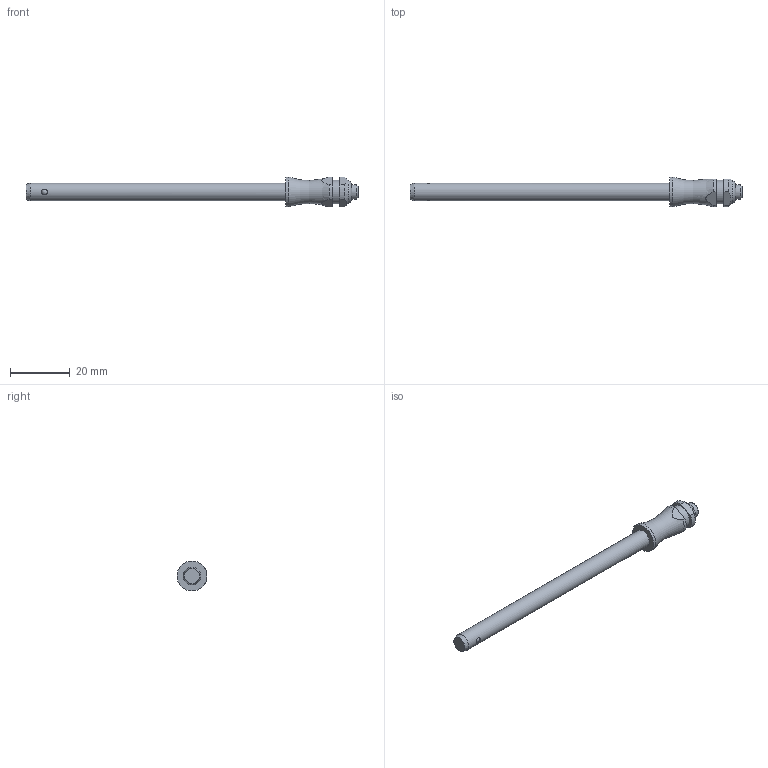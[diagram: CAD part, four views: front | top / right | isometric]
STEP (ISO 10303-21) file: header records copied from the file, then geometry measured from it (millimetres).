
FILE_DESCRIPTION( ( 'STEP AP203' ), '1' );
FILE_NAME( 'C:/Temp/Ganter_Step_05_03_2020/data/3_1/gn113_3/Stainless Steel-Ball lock pin GN 113.3-6-80 (activated).stp', '2020-03-12T08:18:21', ( 'License CC BY-ND 4.0' ), ( 'CADENAS' ), ' ', 'PARTsolutions', ' ' );
FILE_SCHEMA( ( 'CONFIG_CONTROL_DESIGN' ) );
Length unit declared in the file: millimetre
Products named in the file (1): _Stainless Steel-Ball lock pin GN 113.3-6-80 (activated)
Bounding box: 111.15 x 10 x 10 mm (x, y, z)
Volume: 3751.1 mm3; surface area: 2441.7 mm2
Topology: 1 solids, 1 shells, 31 faces, 73 edges, 46 vertices
Faces by surface type: plane 12, cylinder 12, cone 3, torus 2, sphere 2
Full cylindrical faces by diameter (mm): 2 x2, 5 x1, 6 x1, 7.9 x1, 10 x1
Entity records: 962 total; most frequent: CARTESIAN_POINT 298, DIRECTION 134, ORIENTED_EDGE 104, AXIS2_PLACEMENT_3D 58, EDGE_CURVE 52, EDGE_LOOP 48, VERTEX_POINT 40, FACE_OUTER_BOUND 39
